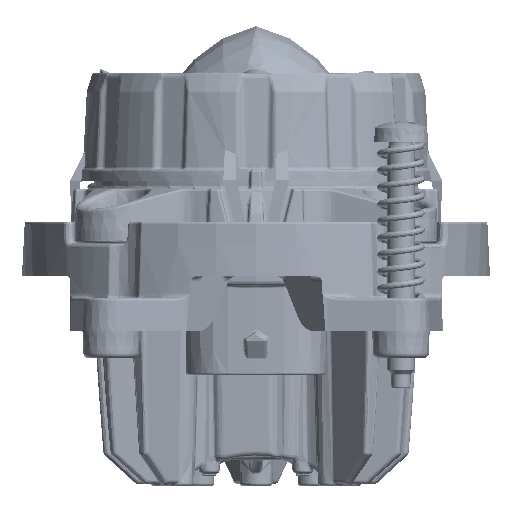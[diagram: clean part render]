
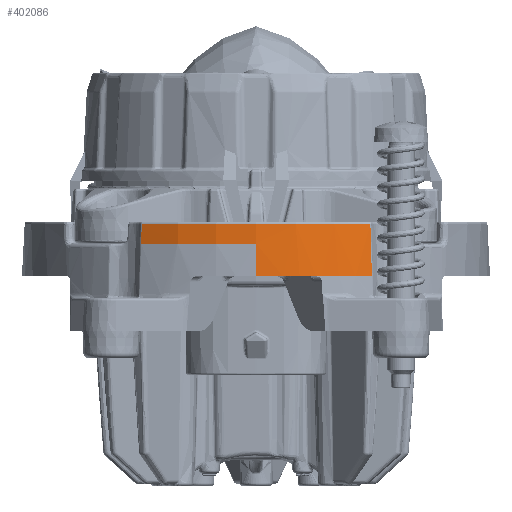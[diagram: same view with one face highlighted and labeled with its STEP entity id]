
A CAD part, front view. The second image highlights one B-rep face of the part: STEP entity #402086.
In plain terms, the highlighted conical face has half-angle 2 degrees and reference radius 42.6 mm.
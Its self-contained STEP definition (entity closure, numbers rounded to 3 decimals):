
#367182=AXIS2_PLACEMENT_3D('Circle Axis2P3D',#367180,#367181,$) ;
#368465=AXIS2_PLACEMENT_3D('Circle Axis2P3D',#368463,#368464,$) ;
#381666=AXIS2_PLACEMENT_3D('Cone Axis2P3D',#381663,#381664,#381665) ;
#402042=AXIS2_PLACEMENT_3D('Circle Axis2P3D',#402040,#402041,$) ;
#330837=CARTESIAN_POINT('Vertex',(21.184,-37.2,-31.)) ;
#339235=CARTESIAN_POINT('Vertex',(20.912,-36.973,-21.483)) ;
#342065=CARTESIAN_POINT('Vertex',(10.983,-41.377,-31.)) ;
#367093=CARTESIAN_POINT('Control Point',(0.,-42.81,-31.)) ;
#367094=CARTESIAN_POINT('Control Point',(2.222,-42.81,-31.)) ;
#367095=CARTESIAN_POINT('Control Point',(4.443,-42.665,-31.)) ;
#367096=CARTESIAN_POINT('Control Point',(6.652,-42.377,-31.)) ;
#367097=CARTESIAN_POINT('Control Point',(8.836,-41.947,-31.)) ;
#367098=CARTESIAN_POINT('Control Point',(10.983,-41.377,-31.)) ;
#367099=CARTESIAN_POINT('Vertex',(0.,-42.81,-31.)) ;
#367162=CARTESIAN_POINT('Control Point',(20.912,-36.973,-21.483)) ;
#367163=CARTESIAN_POINT('Control Point',(20.965,-37.018,-23.348)) ;
#367164=CARTESIAN_POINT('Control Point',(21.018,-37.062,-25.213)) ;
#367165=CARTESIAN_POINT('Control Point',(21.072,-37.107,-27.079)) ;
#367166=CARTESIAN_POINT('Control Point',(21.126,-37.153,-28.982)) ;
#367167=CARTESIAN_POINT('Control Point',(21.181,-37.198,-30.886)) ;
#367168=CARTESIAN_POINT('Control Point',(21.182,-37.199,-30.924)) ;
#367169=CARTESIAN_POINT('Control Point',(21.183,-37.2,-30.962)) ;
#367170=CARTESIAN_POINT('Control Point',(21.184,-37.2,-31.)) ;
#367180=CARTESIAN_POINT('Axis2P3D Location',(0.,0.,-31.)) ;
#367184=CARTESIAN_POINT('Vertex',(11.967,-41.103,-31.)) ;
#367188=CARTESIAN_POINT('Control Point',(11.967,-41.103,-31.)) ;
#367189=CARTESIAN_POINT('Control Point',(11.64,-41.198,-31.)) ;
#367190=CARTESIAN_POINT('Control Point',(11.312,-41.289,-31.)) ;
#367191=CARTESIAN_POINT('Control Point',(10.983,-41.377,-31.)) ;
#368460=CARTESIAN_POINT('Vertex',(-20.912,-36.973,-21.483)) ;
#368463=CARTESIAN_POINT('Axis2P3D Location',(0.,0.,-21.483)) ;
#381663=CARTESIAN_POINT('Axis2P3D Location',(0.,0.,-25.)) ;
#402033=CARTESIAN_POINT('Line Origine',(0.,-42.862,-32.511)) ;
#402037=CARTESIAN_POINT('Vertex',(0.,-42.6,-25.)) ;
#402040=CARTESIAN_POINT('Axis2P3D Location',(0.,0.,-25.)) ;
#402044=CARTESIAN_POINT('Vertex',(-21.012,-37.057,-25.)) ;
#402071=CARTESIAN_POINT('Control Point',(-21.012,-37.057,-25.)) ;
#402072=CARTESIAN_POINT('Control Point',(-20.979,-37.029,-23.828)) ;
#402073=CARTESIAN_POINT('Control Point',(-20.945,-37.001,-22.655)) ;
#402074=CARTESIAN_POINT('Control Point',(-20.912,-36.973,-21.483)) ;
#367181=DIRECTION('Axis2P3D Direction',(0.,0.,-1.)) ;
#368464=DIRECTION('Axis2P3D Direction',(0.,0.,-1.)) ;
#381664=DIRECTION('Axis2P3D Direction',(0.,0.,-1.)) ;
#381665=DIRECTION('Axis2P3D XDirection',(-0.707,-0.707,0.)) ;
#402034=DIRECTION('Vector Direction',(0.,-0.035,-0.999)) ;
#402041=DIRECTION('Axis2P3D Direction',(0.,0.,-1.)) ;
#402035=VECTOR('Line Direction',#402034,1.) ;
#402077=ORIENTED_EDGE('',*,*,#368467,.F.) ;
#402078=ORIENTED_EDGE('',*,*,#402075,.F.) ;
#402079=ORIENTED_EDGE('',*,*,#402046,.T.) ;
#402080=ORIENTED_EDGE('',*,*,#402039,.F.) ;
#402081=ORIENTED_EDGE('',*,*,#367101,.F.) ;
#402082=ORIENTED_EDGE('',*,*,#367192,.T.) ;
#402083=ORIENTED_EDGE('',*,*,#367186,.F.) ;
#402084=ORIENTED_EDGE('',*,*,#367171,.T.) ;
#402086=ADVANCED_FACE('Housing_gr',(#402085),#381667,.T.) ;
#367092=B_SPLINE_CURVE_WITH_KNOTS('',5,(#367093,#367094,#367095,#367096,#367097,#367098),.UNSPECIFIED.,.F.,.U.,(6,6),(0.,15.67),.UNSPECIFIED.) ;
#367161=B_SPLINE_CURVE_WITH_KNOTS('',5,(#367162,#367163,#367164,#367165,#367166,#367167,#367168,#367169,#367170),.UNSPECIFIED.,.F.,.U.,(6,3,6),(4.549,17.749,18.018),.UNSPECIFIED.) ;
#367187=B_SPLINE_CURVE_WITH_KNOTS('',3,(#367188,#367189,#367190,#367191),.UNSPECIFIED.,.F.,.U.,(4,4),(0.,1.44),.UNSPECIFIED.) ;
#402070=B_SPLINE_CURVE_WITH_KNOTS('',3,(#402071,#402072,#402073,#402074),.UNSPECIFIED.,.F.,.U.,(4,4),(17.302,22.279),.UNSPECIFIED.) ;
#367183=CIRCLE('generated circle',#367182,42.81) ;
#368466=CIRCLE('generated circle',#368465,42.477) ;
#402043=CIRCLE('generated circle',#402042,42.6) ;
#381667=CONICAL_SURFACE('Cone',#381666,42.6,0.035) ;
#367101=EDGE_CURVE('',#342066,#367100,#367092,.F.) ;
#367171=EDGE_CURVE('',#330838,#339236,#367161,.F.) ;
#367186=EDGE_CURVE('',#330838,#367185,#367183,.T.) ;
#367192=EDGE_CURVE('',#342066,#367185,#367187,.F.) ;
#368467=EDGE_CURVE('',#368461,#339236,#368466,.F.) ;
#402039=EDGE_CURVE('',#367100,#402038,#402036,.F.) ;
#402046=EDGE_CURVE('',#402045,#402038,#402043,.F.) ;
#402075=EDGE_CURVE('',#402045,#368461,#402070,.T.) ;
#402076=EDGE_LOOP('',(#402077,#402078,#402079,#402080,#402081,#402082,#402083,#402084)) ;
#402085=FACE_OUTER_BOUND('',#402076,.T.) ;
#402036=LINE('Line',#402033,#402035) ;
#330838=VERTEX_POINT('',#330837) ;
#339236=VERTEX_POINT('',#339235) ;
#342066=VERTEX_POINT('',#342065) ;
#367100=VERTEX_POINT('',#367099) ;
#367185=VERTEX_POINT('',#367184) ;
#368461=VERTEX_POINT('',#368460) ;
#402038=VERTEX_POINT('',#402037) ;
#402045=VERTEX_POINT('',#402044) ;
